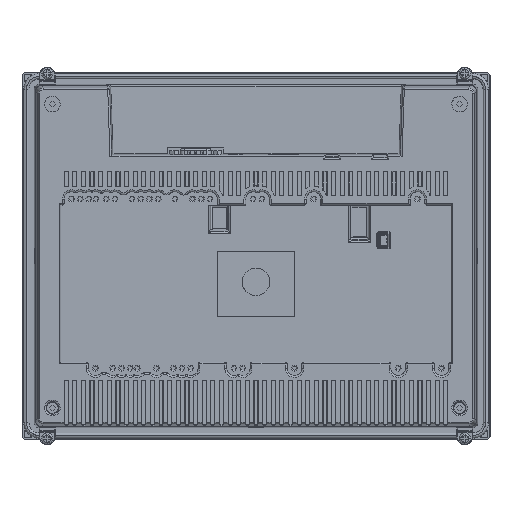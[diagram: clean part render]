
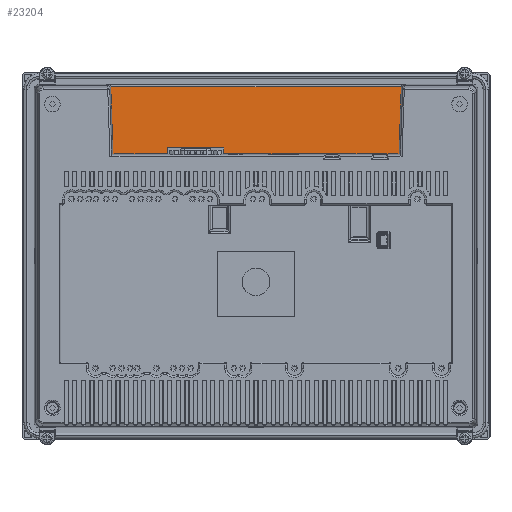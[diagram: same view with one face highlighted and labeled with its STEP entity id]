
A CAD part, front view. The second image highlights one B-rep face of the part: STEP entity #23204.
In plain terms, the highlighted planar face has unit normal (0, -1, 0.018).
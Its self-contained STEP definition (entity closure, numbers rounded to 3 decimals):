
#23204=ADVANCED_FACE('',(#29458),#166813,.T.);
#29458=FACE_OUTER_BOUND('',#35727,.T.);
#35727=EDGE_LOOP('',(#43165,#43166,#43167,#43168,#43169,#43170,#43171,#43172,
#43173,#43174,#43175,#43176,#43177,#43178,#43179,#43180));
#43165=ORIENTED_EDGE('',*,*,#75049,.T.);
#43166=ORIENTED_EDGE('',*,*,#75050,.T.);
#43167=ORIENTED_EDGE('',*,*,#75051,.T.);
#43168=ORIENTED_EDGE('',*,*,#75052,.T.);
#43169=ORIENTED_EDGE('',*,*,#75053,.T.);
#43170=ORIENTED_EDGE('',*,*,#75054,.T.);
#43171=ORIENTED_EDGE('',*,*,#75055,.T.);
#43172=ORIENTED_EDGE('',*,*,#75056,.T.);
#43173=ORIENTED_EDGE('',*,*,#75057,.T.);
#43174=ORIENTED_EDGE('',*,*,#75058,.T.);
#43175=ORIENTED_EDGE('',*,*,#75059,.T.);
#43176=ORIENTED_EDGE('',*,*,#75060,.T.);
#43177=ORIENTED_EDGE('',*,*,#75061,.T.);
#43178=ORIENTED_EDGE('',*,*,#75062,.T.);
#43179=ORIENTED_EDGE('',*,*,#75063,.T.);
#43180=ORIENTED_EDGE('',*,*,#75064,.T.);
#75049=EDGE_CURVE('',#135825,#135826,#106858,.T.);
#75050=EDGE_CURVE('',#135826,#135827,#106859,.T.);
#75051=EDGE_CURVE('',#135827,#135828,#106860,.T.);
#75052=EDGE_CURVE('',#135828,#135829,#106861,.T.);
#75053=EDGE_CURVE('',#135829,#135830,#106862,.T.);
#75054=EDGE_CURVE('',#135830,#135831,#106863,.T.);
#75055=EDGE_CURVE('',#135831,#135832,#106864,.T.);
#75056=EDGE_CURVE('',#135832,#135833,#106865,.T.);
#75057=EDGE_CURVE('',#135833,#135834,#106866,.T.);
#75058=EDGE_CURVE('',#135834,#135835,#106867,.T.);
#75059=EDGE_CURVE('',#135835,#135836,#106868,.T.);
#75060=EDGE_CURVE('',#135836,#135837,#106869,.T.);
#75061=EDGE_CURVE('',#135837,#135838,#106870,.T.);
#75062=EDGE_CURVE('',#135838,#135839,#106871,.T.);
#75063=EDGE_CURVE('',#135839,#135840,#106872,.T.);
#75064=EDGE_CURVE('',#135840,#135825,#106873,.T.);
#106858=B_SPLINE_CURVE_WITH_KNOTS('',1,(#185067,#185068),.UNSPECIFIED.,
 .F.,.F.,(2,2),(0.,5.585),.UNSPECIFIED.);
#106859=B_SPLINE_CURVE_WITH_KNOTS('',1,(#185069,#185070),.UNSPECIFIED.,
 .F.,.F.,(2,2),(0.,26.698),.UNSPECIFIED.);
#106860=B_SPLINE_CURVE_WITH_KNOTS('',1,(#185071,#185072),.UNSPECIFIED.,
 .F.,.F.,(2,2),(0.,5.961),.UNSPECIFIED.);
#106861=B_SPLINE_CURVE_WITH_KNOTS('',1,(#185073,#185074),.UNSPECIFIED.,
 .F.,.F.,(2,2),(0.,17.381),.UNSPECIFIED.);
#106862=B_SPLINE_CURVE_WITH_KNOTS('',1,(#185075,#185076),.UNSPECIFIED.,
 .F.,.F.,(2,2),(0.,2.191),.UNSPECIFIED.);
#106863=B_SPLINE_CURVE_WITH_KNOTS('',1,(#185077,#185078),.UNSPECIFIED.,
 .F.,.F.,(2,2),(0.,38.83),.UNSPECIFIED.);
#106864=B_SPLINE_CURVE_WITH_KNOTS('',1,(#185079,#185080),.UNSPECIFIED.,
 .F.,.F.,(2,2),(0.,168.329),.UNSPECIFIED.);
#106865=B_SPLINE_CURVE_WITH_KNOTS('',1,(#185081,#185082),.UNSPECIFIED.,
 .F.,.F.,(2,2),(0.,38.831),.UNSPECIFIED.);
#106866=B_SPLINE_CURVE_WITH_KNOTS('',1,(#185083,#185084),.UNSPECIFIED.,
 .F.,.F.,(2,2),(0.,3.92),.UNSPECIFIED.);
#106867=B_SPLINE_CURVE_WITH_KNOTS('',1,(#185085,#185086),.UNSPECIFIED.,
 .F.,.F.,(2,2),(0.,5.923),.UNSPECIFIED.);
#106868=B_SPLINE_CURVE_WITH_KNOTS('',1,(#185087,#185088),.UNSPECIFIED.,
 .F.,.F.,(2,2),(0.,21.615),.UNSPECIFIED.);
#106869=B_SPLINE_CURVE_WITH_KNOTS('',1,(#185089,#185090),.UNSPECIFIED.,
 .F.,.F.,(2,2),(0.,3.379),.UNSPECIFIED.);
#106870=B_SPLINE_CURVE_WITH_KNOTS('',1,(#185091,#185092),.UNSPECIFIED.,
 .F.,.F.,(2,2),(0.,32.847),.UNSPECIFIED.);
#106871=B_SPLINE_CURVE_WITH_KNOTS('',1,(#185093,#185094),.UNSPECIFIED.,
 .F.,.F.,(2,2),(0.,3.379),.UNSPECIFIED.);
#106872=B_SPLINE_CURVE_WITH_KNOTS('',1,(#185095,#185096),.UNSPECIFIED.,
 .F.,.F.,(2,2),(0.,25.511),.UNSPECIFIED.);
#106873=B_SPLINE_CURVE_WITH_KNOTS('',1,(#185097,#185098),.UNSPECIFIED.,
 .F.,.F.,(2,2),(0.,18.132),.UNSPECIFIED.);
#135825=VERTEX_POINT('',#185051);
#135826=VERTEX_POINT('',#185052);
#135827=VERTEX_POINT('',#185053);
#135828=VERTEX_POINT('',#185054);
#135829=VERTEX_POINT('',#185055);
#135830=VERTEX_POINT('',#185056);
#135831=VERTEX_POINT('',#185057);
#135832=VERTEX_POINT('',#185058);
#135833=VERTEX_POINT('',#185059);
#135834=VERTEX_POINT('',#185060);
#135835=VERTEX_POINT('',#185061);
#135836=VERTEX_POINT('',#185062);
#135837=VERTEX_POINT('',#185063);
#135838=VERTEX_POINT('',#185064);
#135839=VERTEX_POINT('',#185065);
#135840=VERTEX_POINT('',#185066);
#166813=PLANE('',#170684);
#170684=AXIS2_PLACEMENT_3D('',#185050,#176050,$);
#176050=DIRECTION('',(0.,-1.,0.017));
#185050=CARTESIAN_POINT('',(-101.01,8.745,101.976));
#185051=CARTESIAN_POINT('',(25.066,8.,59.279));
#185052=CARTESIAN_POINT('',(30.651,8.,59.279));
#185053=CARTESIAN_POINT('',(57.349,8.,59.279));
#185054=CARTESIAN_POINT('',(63.31,8.,59.279));
#185055=CARTESIAN_POINT('',(80.69,8.,59.279));
#185056=CARTESIAN_POINT('',(82.881,8.,59.279));
#185057=CARTESIAN_POINT('',(84.165,8.677,98.083));
#185058=CARTESIAN_POINT('',(-84.165,8.677,98.083));
#185059=CARTESIAN_POINT('',(-82.881,8.,59.279));
#185060=CARTESIAN_POINT('',(-78.962,8.,59.279));
#185061=CARTESIAN_POINT('',(-73.038,8.,59.279));
#185062=CARTESIAN_POINT('',(-51.423,8.,59.279));
#185063=CARTESIAN_POINT('',(-51.423,8.059,62.657));
#185064=CARTESIAN_POINT('',(-18.577,8.059,62.657));
#185065=CARTESIAN_POINT('',(-18.577,8.,59.279));
#185066=CARTESIAN_POINT('',(6.934,8.,59.279));
#185067=CARTESIAN_POINT('',(25.066,8.,59.279));
#185068=CARTESIAN_POINT('',(30.651,8.,59.279));
#185069=CARTESIAN_POINT('',(30.651,8.,59.279));
#185070=CARTESIAN_POINT('',(57.349,8.,59.279));
#185071=CARTESIAN_POINT('',(57.349,8.,59.279));
#185072=CARTESIAN_POINT('',(63.31,8.,59.279));
#185073=CARTESIAN_POINT('',(63.31,8.,59.279));
#185074=CARTESIAN_POINT('',(80.69,8.,59.279));
#185075=CARTESIAN_POINT('',(80.69,8.,59.279));
#185076=CARTESIAN_POINT('',(82.881,8.,59.279));
#185077=CARTESIAN_POINT('',(82.881,8.,59.279));
#185078=CARTESIAN_POINT('',(84.165,8.677,98.083));
#185079=CARTESIAN_POINT('',(84.165,8.677,98.083));
#185080=CARTESIAN_POINT('',(-84.165,8.677,98.083));
#185081=CARTESIAN_POINT('',(-84.165,8.677,98.083));
#185082=CARTESIAN_POINT('',(-82.881,8.,59.279));
#185083=CARTESIAN_POINT('',(-82.881,8.,59.279));
#185084=CARTESIAN_POINT('',(-78.962,8.,59.279));
#185085=CARTESIAN_POINT('',(-78.962,8.,59.279));
#185086=CARTESIAN_POINT('',(-73.038,8.,59.279));
#185087=CARTESIAN_POINT('',(-73.038,8.,59.279));
#185088=CARTESIAN_POINT('',(-51.423,8.,59.279));
#185089=CARTESIAN_POINT('',(-51.423,8.,59.279));
#185090=CARTESIAN_POINT('',(-51.423,8.059,62.657));
#185091=CARTESIAN_POINT('',(-51.423,8.059,62.657));
#185092=CARTESIAN_POINT('',(-18.577,8.059,62.657));
#185093=CARTESIAN_POINT('',(-18.577,8.059,62.657));
#185094=CARTESIAN_POINT('',(-18.577,8.,59.279));
#185095=CARTESIAN_POINT('',(-18.577,8.,59.279));
#185096=CARTESIAN_POINT('',(6.934,8.,59.279));
#185097=CARTESIAN_POINT('',(6.934,8.,59.279));
#185098=CARTESIAN_POINT('',(25.066,8.,59.279));
